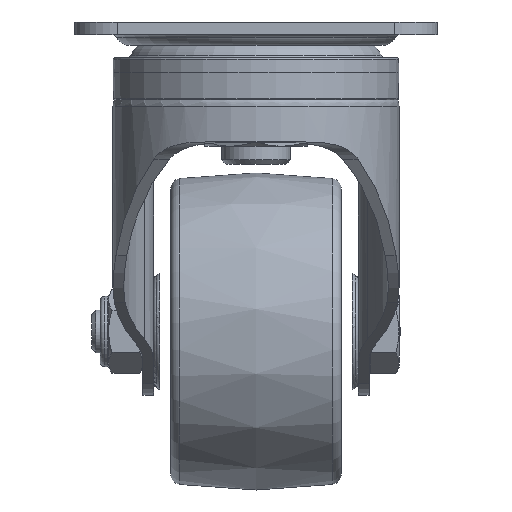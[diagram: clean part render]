
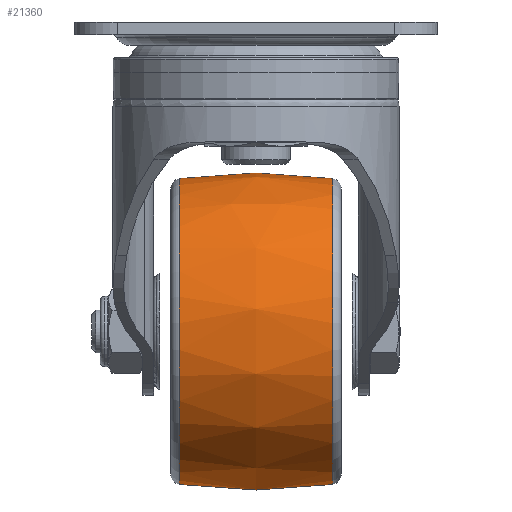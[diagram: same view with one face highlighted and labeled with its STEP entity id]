
A CAD part, left-side view. The second image highlights one B-rep face of the part: STEP entity #21360.
In plain terms, the highlighted free-form (B-spline) face has degree [2, 2] with [3, 9] control points.
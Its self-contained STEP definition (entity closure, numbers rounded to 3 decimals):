
#27=(
BOUNDED_SURFACE()
B_SPLINE_SURFACE(2,2,((#30045,#30046,#30047,#30048,#30049,#30050,#30051,
#30052,#30053),(#30054,#30055,#30056,#30057,#30058,#30059,#30060,#30061,
#30062),(#30063,#30064,#30065,#30066,#30067,#30068,#30069,#30070,#30071)),
 .UNSPECIFIED.,.F.,.T.,.F.)
B_SPLINE_SURFACE_WITH_KNOTS((3,3),(3,2,2,2,3),(-0.18,0.18),
(-3.142,-1.571,0.,1.571,3.142),
 .UNSPECIFIED.)
GEOMETRIC_REPRESENTATION_ITEM()
RATIONAL_B_SPLINE_SURFACE(((1.,0.707,1.,0.707,1.,
0.707,1.,0.707,1.),(0.984,0.696,
0.984,0.696,0.984,0.696,
0.984,0.696,0.984),(1.,0.707,
1.,0.707,1.,0.707,1.,0.707,1.)))
REPRESENTATION_ITEM('')
SURFACE()
);
#6341=FACE_OUTER_BOUND('',#7597,.T.);
#7597=EDGE_LOOP('',(#15337,#15338,#15339,#15340));
#8945=CIRCLE('',#22714,35.876);
#8947=CIRCLE('',#22716,35.876);
#8948=CIRCLE('',#22717,100.);
#9731=VERTEX_POINT('',#30042);
#9732=VERTEX_POINT('',#30072);
#11953=EDGE_CURVE('',#9731,#9731,#8945,.T.);
#11955=EDGE_CURVE('',#9732,#9732,#8947,.T.);
#11956=EDGE_CURVE('',#9732,#9731,#8948,.T.);
#15337=ORIENTED_EDGE('',*,*,#11955,.F.);
#15338=ORIENTED_EDGE('',*,*,#11956,.T.);
#15339=ORIENTED_EDGE('',*,*,#11953,.T.);
#15340=ORIENTED_EDGE('',*,*,#11956,.F.);
#21360=ADVANCED_FACE('',(#6341),#27,.F.);
#22714=AXIS2_PLACEMENT_3D('',#30043,#24284,#24285);
#22716=AXIS2_PLACEMENT_3D('',#30073,#24288,#24289);
#22717=AXIS2_PLACEMENT_3D('',#30074,#24290,#24291);
#24284=DIRECTION('center_axis',(0.,-1.,0.));
#24285=DIRECTION('ref_axis',(0.6,0.,-0.8));
#24288=DIRECTION('center_axis',(0.,-1.,0.));
#24289=DIRECTION('ref_axis',(0.6,0.,-0.8));
#24290=DIRECTION('center_axis',(-0.8,0.,
-0.6));
#24291=DIRECTION('ref_axis',(-0.6,0.,0.8));
#30042=CARTESIAN_POINT('',(18.457,17.949,-42.612));
#30043=CARTESIAN_POINT('Origin',(40.,17.949,-71.3));
#30045=CARTESIAN_POINT('Ctrl Pts',(18.457,17.949,-42.612));
#30046=CARTESIAN_POINT('Ctrl Pts',(-10.231,17.949,-64.156));
#30047=CARTESIAN_POINT('Ctrl Pts',(11.312,17.949,-92.843));
#30048=CARTESIAN_POINT('Ctrl Pts',(32.856,17.949,-121.531));
#30049=CARTESIAN_POINT('Ctrl Pts',(61.543,17.949,-99.988));
#30050=CARTESIAN_POINT('Ctrl Pts',(90.231,17.949,-78.444));
#30051=CARTESIAN_POINT('Ctrl Pts',(68.688,17.949,-49.757));
#30052=CARTESIAN_POINT('Ctrl Pts',(47.144,17.949,-21.069));
#30053=CARTESIAN_POINT('Ctrl Pts',(18.457,17.949,-42.612));
#30054=CARTESIAN_POINT('Ctrl Pts',(16.49,0.,
-39.994));
#30055=CARTESIAN_POINT('Ctrl Pts',(-14.816,0.,
-63.504));
#30056=CARTESIAN_POINT('Ctrl Pts',(8.694,0.,
-94.81));
#30057=CARTESIAN_POINT('Ctrl Pts',(32.204,0.,
-126.116));
#30058=CARTESIAN_POINT('Ctrl Pts',(63.51,0.,
-102.606));
#30059=CARTESIAN_POINT('Ctrl Pts',(94.816,0.,
-79.096));
#30060=CARTESIAN_POINT('Ctrl Pts',(71.306,0.,
-47.79));
#30061=CARTESIAN_POINT('Ctrl Pts',(47.796,0.,
-16.484));
#30062=CARTESIAN_POINT('Ctrl Pts',(16.49,0.,
-39.994));
#30063=CARTESIAN_POINT('Ctrl Pts',(18.457,-17.949,-42.612));
#30064=CARTESIAN_POINT('Ctrl Pts',(-10.231,-17.949,-64.156));
#30065=CARTESIAN_POINT('Ctrl Pts',(11.312,-17.949,-92.843));
#30066=CARTESIAN_POINT('Ctrl Pts',(32.856,-17.949,-121.531));
#30067=CARTESIAN_POINT('Ctrl Pts',(61.543,-17.949,-99.988));
#30068=CARTESIAN_POINT('Ctrl Pts',(90.231,-17.949,-78.444));
#30069=CARTESIAN_POINT('Ctrl Pts',(68.688,-17.949,-49.757));
#30070=CARTESIAN_POINT('Ctrl Pts',(47.144,-17.949,-21.069));
#30071=CARTESIAN_POINT('Ctrl Pts',(18.457,-17.949,-42.612));
#30072=CARTESIAN_POINT('',(18.457,-17.949,-42.612));
#30073=CARTESIAN_POINT('Origin',(40.,-17.949,-71.3));
#30074=CARTESIAN_POINT('Origin',(77.531,0.,
-121.277));
